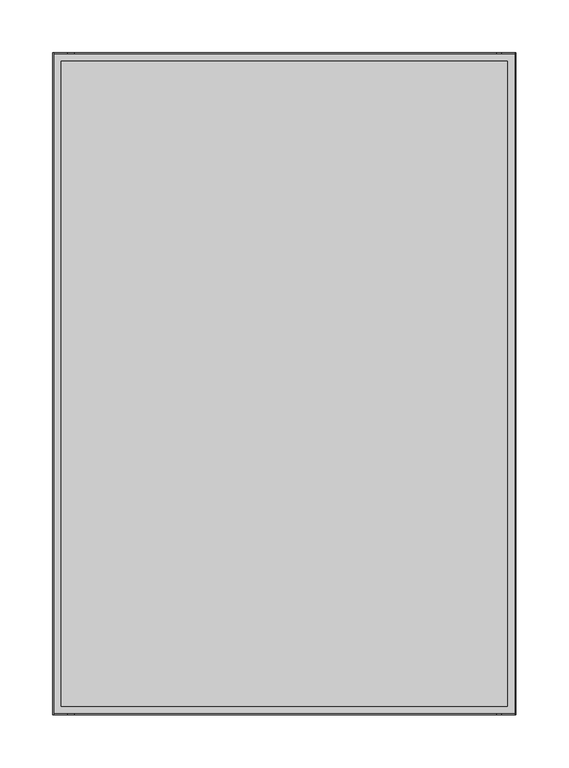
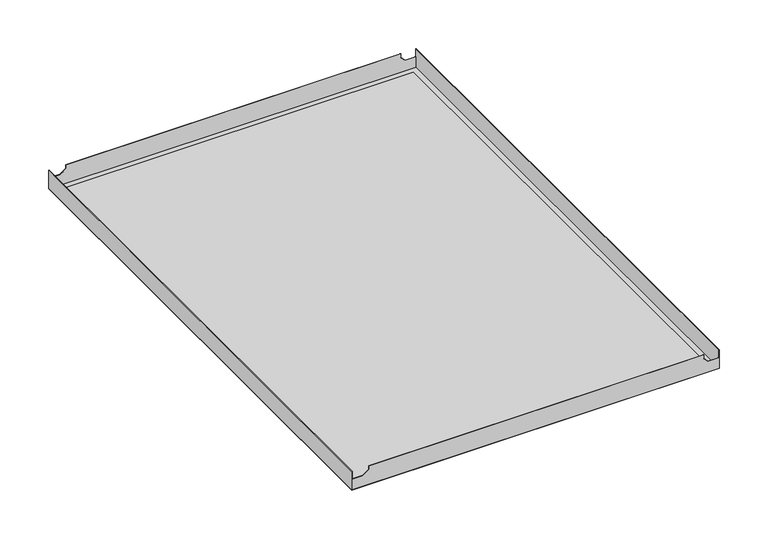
"""IFC4 building model written with IfcOpenShell, lengths in millimetres: proxy geometry, durlum_S1_panel : durlum_S1_panel_wall_length_cut."""

from ifc_helpers import new_model, si_unit, frame, origin, origin_with_axes, place, context, project, spatial, polyline, outline, extrude, faceted_brep, source, transform, mapped, element, save


def generic_models_aa8f36d8(model_context):
    return source(origin(), model_context, "Body", "SolidModel", [
        faceted_brep([(-218.75, 312.5, 23.5), (-218.75, -312.5, 23.5), (-218.15, -312.5, 23.5), (-218.15, 312.5, 23.5), (218.75, -312.5, 23.5), (218.75, 312.5, 23.5), (218.15, 312.5, 23.5), (218.15, -312.5, 23.5), (-198.15, 312.5, 23.5), (-198.15, 311.9, 23.5), (200.15, 311.9, 23.5), (200.15, 312.5, 23.5), (-198.15, -311.9, 23.5), (-198.15, -312.5, 23.5), (200.15, -312.5, 23.5), (200.15, -311.9, 23.5), (218.75, 312.5, 0.6), (218.75, -312.5, 0.6), (-218.75, -312.5, 0.6), (-218.75, 312.5, 0.6), (218.15, 311.9, 0.6), (-218.15, 311.9, 0.6), (-218.15, -311.9, 0.6), (218.15, -311.9, 0.6), (-218.15, 312.5, 13.6669893), (-205.4158218, 312.5, 13.6669893), (-198.15, 312.5, 18.9328111), (200.15, 312.5, 18.9469988), (205.4300094, 312.5, 13.6669893), (218.15, 312.5, 13.6669893), (218.15, -312.5, 13.6669893), (205.4300094, -312.5, 13.6669893), (200.15, -312.5, 18.9469988), (-198.15, -312.5, 18.9328111), (-205.4158218, -312.5, 13.6669893), (-218.15, -312.5, 13.6669893), (218.15, 311.9, 13.6669893), (218.15, -311.9, 13.6669893), (-218.15, -311.9, 13.6669893), (-205.4158218, -311.9, 13.6669893), (-198.15, -311.9, 18.9328111), (200.15, -311.9, 18.9469988), (205.4300094, -311.9, 13.6669893), (-218.15, 311.9, 13.6669893), (205.4300094, 311.9, 13.6669893), (200.15, 311.9, 18.9469988), (-198.15, 311.9, 18.9328111), (-205.4158218, 311.9, 13.6669893)], [[[0, 1, 2, 3]], [[4, 5, 6, 7]], [[8, 9, 10, 11]], [[12, 13, 14, 15]], [[16, 17, 18, 19], [20, 21, 22, 23]], [[16, 19, 0, 3, 24, 25, 26, 8, 11, 27, 28, 29, 6, 5]], [[1, 0, 19, 18]], [[18, 17, 4, 7, 30, 31, 32, 14, 13, 33, 34, 35, 2, 1]], [[5, 4, 17, 16]], [[6, 29, 36, 20, 23, 37, 30, 7]], [[23, 22, 38, 39, 40, 12, 15, 41, 42, 37]], [[22, 21, 43, 24, 3, 2, 35, 38]], [[21, 20, 36, 44, 45, 10, 9, 46, 47, 43]], [[38, 35, 34, 39]], [[24, 43, 47, 25]], [[39, 34, 33, 40]], [[25, 47, 46, 26]], [[40, 33, 13, 12]], [[26, 46, 9, 8]], [[36, 29, 28, 44]], [[30, 37, 42, 31]], [[44, 28, 27, 45]], [[31, 42, 41, 32]], [[32, 41, 15, 14]], [[45, 27, 11, 10]]]),
        extrude(outline(polyline([(210.75, 304.5), (210.75, -304.5), (-210.75, -304.5), (-210.75, 304.5), (210.75, 304.5)])), frame((0.0, 0.0, 0.6), z_axis=(0.0, 0.0, 1.0), x_axis=(1.0, 0.0, 0.0)), (0.0, 0.0, 1.0), 0.6),
        extrude(outline(polyline([(218.75, 312.5), (218.75, -312.5), (-218.75, -312.5), (-218.75, 312.5), (218.75, 312.5)]), holes=[polyline([(210.75, 304.5), (-210.75, 304.5), (-210.75, -304.5), (210.75, -304.5), (210.75, 304.5)])]), origin_with_axes(), (0.0, 0.0, 1.0), 0.6),
        extrude(outline(polyline([(210.75, 304.5), (210.75, -304.5), (-210.75, -304.5), (-210.75, 304.5), (210.75, 304.5)])), origin_with_axes(), (0.0, 0.0, 1.0), 0.6),
    ])


if __name__ == "__main__":
    model = new_model("IFC4")
    model_context = context("Model", 3, world=origin())
    ifc_project = project(units=[si_unit("LENGTHUNIT", "METRE", prefix="MILLI")], contexts=[model_context])
    site = spatial("IfcSite", under=ifc_project)
    building = spatial("IfcBuilding", under=site)
    placement = place(None, origin())
    generic_models_shape = generic_models_aa8f36d8(model_context)
    element("IfcBuildingElementProxy", 1, Name="durlum_S1_panel : durlum_S1_panel_wall_length_cut", ObjectType="durlum_S1_panel : durlum_S1_panel_wall_length_cut", at=placement, inside=building, context=model_context, shape_type="MappedRepresentation", body=[
        mapped(generic_models_shape, transform((0.0, 0.0, 0.0), x_axis=(1.0, 0.0, 0.0), y_axis=(0.0, 1.0, 0.0), z_axis=(0.0, 0.0, 1.0))),
    ])
    save(model, "model.ifc")
